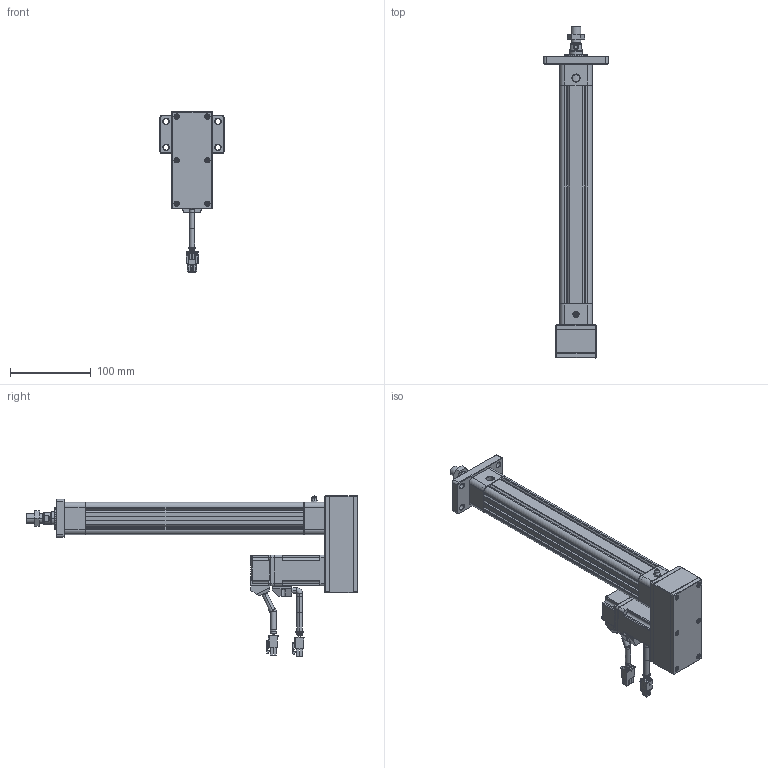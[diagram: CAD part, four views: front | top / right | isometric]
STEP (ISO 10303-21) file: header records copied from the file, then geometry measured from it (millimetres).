
FILE_DESCRIPTION((''),'2;1');
FILE_NAME('ASM0002_ASM','2020-04-18T',('ASUS20200'),(''),'CREO PARAMETRIC BY PTC INC, 2014190','CREO PARAMETRIC BY PTC INC, 2014190','');
FILE_SCHEMA(('CONFIG_CONTROL_DESIGN'));
Length unit declared in the file: millimetre
Products named in the file (25): HE32-001-X1; HE32-002-X1; HE32-003-X1; 636ZZ; LGLM-M6-22; TF1622-20; HE32-P-011-X1; 1_1; 2_1; 3_1; 4_1; 5_1; 6_1; 7_1; ASM0001_ASM; YZ-M6X1; HE32-P-012-X2; HE32-P-014-X1; M3X35; HE32-005-X1; HE32-004-X1; HE32-D-P-008-X1; F-SI32FA; M6X16; ASM0002_ASM
Assembly tree (39 placements, depth 3):
  ASM0002_ASM
    HE32-001-X1
    HE32-002-X1
    HE32-003-X1
    636ZZ
    LGLM-M6-22  x8
    TF1622-20
    HE32-P-011-X1
    ASM0001_ASM
      1_1
      2_1
      3_1
      4_1
      5_1
      6_1
      7_1
    YZ-M6X1
    HE32-P-012-X2
    HE32-P-014-X1
    M3X35  x6
    HE32-005-X1
    HE32-004-X1
    HE32-D-P-008-X1
    F-SI32FA
    M6X16  x4
Bounding box: 80 x 411 x 198.7 mm (x, y, z)
Volume: 599186.4 mm3; surface area: 261467.2 mm2
Topology: 38 solids, 66 shells, 2449 faces, 5888 edges, 3631 vertices
Faces by surface type: plane 1087, cylinder 652, cone 606, torus 68, bspline 18, sphere 18
Entity records: 60776 total; most frequent: CARTESIAN_POINT 11896, DIRECTION 10613, ORIENTED_EDGE 9651, EDGE_CURVE 4876, AXIS2_PLACEMENT_3D 3870, VERTEX_POINT 3030, VECTOR 2873, LINE 2873
